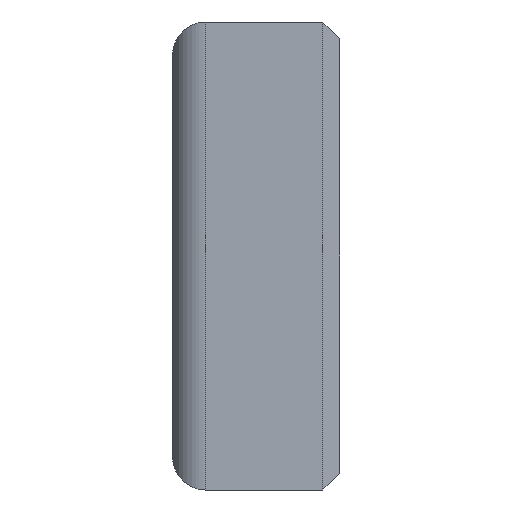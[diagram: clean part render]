
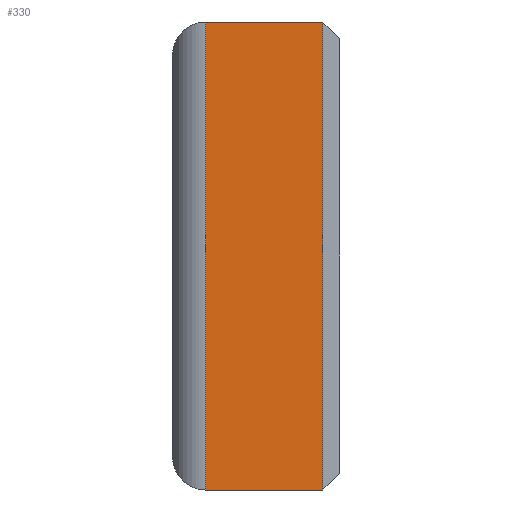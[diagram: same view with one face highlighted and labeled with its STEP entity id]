
A CAD part, left-side view. The second image highlights one B-rep face of the part: STEP entity #330.
In plain terms, the highlighted planar face has unit normal (-1, 0, 0).
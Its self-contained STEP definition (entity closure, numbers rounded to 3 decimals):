
#35=PLANE('',#376);
#51=FACE_OUTER_BOUND('',#73,.T.);
#73=EDGE_LOOP('',(#256,#257,#258,#259));
#95=LINE('',#506,#123);
#100=LINE('',#515,#128);
#108=LINE('',#536,#136);
#113=LINE('',#545,#141);
#123=VECTOR('',#412,10.);
#128=VECTOR('',#421,10.);
#136=VECTOR('',#441,10.);
#141=VECTOR('',#452,10.);
#151=VERTEX_POINT('',#498);
#153=VERTEX_POINT('',#504);
#155=VERTEX_POINT('',#513);
#159=VERTEX_POINT('',#526);
#179=EDGE_CURVE('',#153,#151,#95,.T.);
#184=EDGE_CURVE('',#155,#153,#100,.T.);
#194=EDGE_CURVE('',#159,#155,#108,.T.);
#199=EDGE_CURVE('',#159,#151,#113,.T.);
#256=ORIENTED_EDGE('',*,*,#179,.F.);
#257=ORIENTED_EDGE('',*,*,#184,.F.);
#258=ORIENTED_EDGE('',*,*,#194,.F.);
#259=ORIENTED_EDGE('',*,*,#199,.T.);
#330=ADVANCED_FACE('',(#51),#35,.T.);
#376=AXIS2_PLACEMENT_3D('',#544,#450,#451);
#412=DIRECTION('',(0.,0.,1.));
#421=DIRECTION('',(0.,1.,0.));
#441=DIRECTION('',(0.,0.,-1.));
#450=DIRECTION('center_axis',(-1.,0.,0.));
#451=DIRECTION('ref_axis',(0.,0.,1.));
#452=DIRECTION('',(0.,1.,0.));
#498=CARTESIAN_POINT('',(0.,8.,28.));
#504=CARTESIAN_POINT('',(0.,8.,0.));
#506=CARTESIAN_POINT('',(0.,8.,7.));
#513=CARTESIAN_POINT('',(0.,1.,0.));
#515=CARTESIAN_POINT('',(0.,0.,0.));
#526=CARTESIAN_POINT('',(0.,1.,28.));
#536=CARTESIAN_POINT('',(0.,1.,7.));
#544=CARTESIAN_POINT('Origin',(0.,0.,0.));
#545=CARTESIAN_POINT('',(0.,0.,28.));
